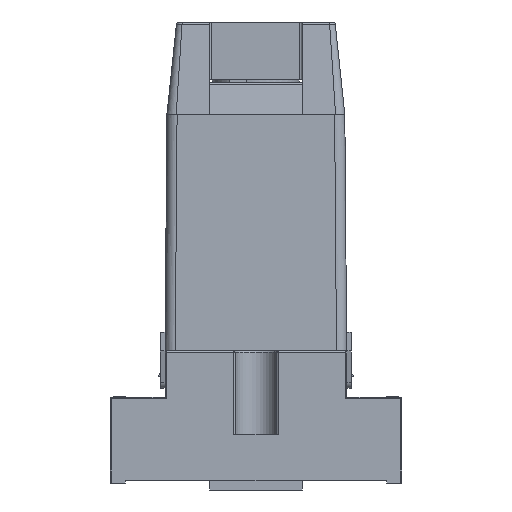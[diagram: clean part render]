
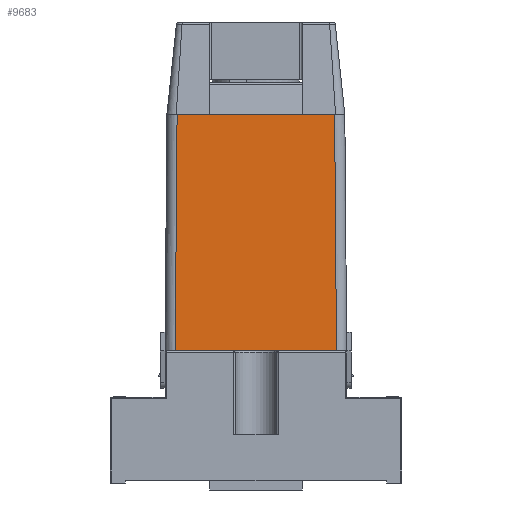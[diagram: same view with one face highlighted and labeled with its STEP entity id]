
A CAD part, front view. The second image highlights one B-rep face of the part: STEP entity #9683.
In plain terms, the highlighted planar face has unit normal (0, -1, 0.008).
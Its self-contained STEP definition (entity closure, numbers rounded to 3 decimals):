
#9683=ADVANCED_FACE('',(#62184),#62186,.T.);
#62184=FACE_BOUND('',#62185,.T.);
#62185=EDGE_LOOP('',(#116047,#116048,#116049,#116050,#116051,#116052,#116053,#116054));
#62186=PLANE('',#62187);
#62187=AXIS2_PLACEMENT_3D('',#62188,#62189,#62190);
#62188=CARTESIAN_POINT('',(16.969,-33.6,79.));
#62189=DIRECTION('',(0.,-1.,0.008));
#62190=DIRECTION('',(-1.,0.,0.));
#116047=ORIENTED_EDGE('',*,*,#148664,.F.);
#116048=ORIENTED_EDGE('',*,*,#148665,.F.);
#116049=ORIENTED_EDGE('',*,*,#148666,.F.);
#116050=ORIENTED_EDGE('',*,*,#148667,.T.);
#116051=ORIENTED_EDGE('',*,*,#148668,.T.);
#116052=ORIENTED_EDGE('',*,*,#148669,.F.);
#116053=ORIENTED_EDGE('',*,*,#146373,.F.);
#116054=ORIENTED_EDGE('',*,*,#148670,.F.);
#146373=EDGE_CURVE('',#165180,#165181,#165182,.T.);
#148664=EDGE_CURVE('',#168786,#168787,#168788,.T.);
#148665=EDGE_CURVE('',#168789,#168786,#168790,.T.);
#148666=EDGE_CURVE('',#168791,#168789,#168792,.T.);
#148667=EDGE_CURVE('',#168791,#168793,#168794,.T.);
#148668=EDGE_CURVE('',#168793,#168795,#168796,.T.);
#148669=EDGE_CURVE('',#165181,#168795,#168797,.T.);
#148670=EDGE_CURVE('',#168787,#165180,#168798,.T.);
#165180=VERTEX_POINT('',#197980);
#165181=VERTEX_POINT('',#197981);
#165182=LINE('',#197982,#197983);
#168786=VERTEX_POINT('',#206737);
#168787=VERTEX_POINT('',#206738);
#168788=LINE('',#206739,#206740);
#168789=VERTEX_POINT('',#206742);
#168790=LINE('',#206743,#206744);
#168791=VERTEX_POINT('',#206746);
#168792=LINE('',#206747,#206748);
#168793=VERTEX_POINT('',#206750);
#168794=LINE('',#206751,#206752);
#168795=VERTEX_POINT('',#206754);
#168796=LINE('',#206755,#206756);
#168797=LINE('',#206758,#206759);
#168798=LINE('',#206761,#206762);
#197980=CARTESIAN_POINT('',(-4.098,-34.,28.));
#197981=CARTESIAN_POINT('',(-13.5,-34.,28.));
#197982=CARTESIAN_POINT('',(-4.098,-34.,28.));
#197983=VECTOR('',#197984,1.);
#197984=DIRECTION('',(-1.,0.,0.));
#206737=CARTESIAN_POINT('',(13.5,-34.,28.));
#206738=CARTESIAN_POINT('',(4.098,-34.,28.));
#206739=CARTESIAN_POINT('',(13.5,-34.,28.));
#206740=VECTOR('',#206741,1.);
#206741=DIRECTION('',(-1.,0.,0.));
#206742=CARTESIAN_POINT('',(17.369,-34.,28.));
#206743=CARTESIAN_POINT('',(17.369,-34.,28.));
#206744=VECTOR('',#206745,1.);
#206745=DIRECTION('',(-1.,0.,0.));
#206746=CARTESIAN_POINT('',(16.969,-33.6,79.));
#206747=CARTESIAN_POINT('',(16.969,-33.6,79.));
#206748=VECTOR('',#206749,1.);
#206749=DIRECTION('',(0.008,-0.008,-1.));
#206750=CARTESIAN_POINT('',(-17.031,-33.6,79.));
#206751=CARTESIAN_POINT('',(16.969,-33.6,79.));
#206752=VECTOR('',#206753,1.);
#206753=DIRECTION('',(-1.,0.,0.));
#206754=CARTESIAN_POINT('',(-17.431,-34.,28.));
#206755=CARTESIAN_POINT('',(-17.031,-33.6,79.));
#206756=VECTOR('',#206757,1.);
#206757=DIRECTION('',(-0.008,-0.008,-1.));
#206758=CARTESIAN_POINT('',(-13.5,-34.,28.));
#206759=VECTOR('',#206760,1.);
#206760=DIRECTION('',(-1.,0.,0.));
#206761=CARTESIAN_POINT('',(4.098,-34.,28.));
#206762=VECTOR('',#206763,1.);
#206763=DIRECTION('',(-1.,0.,0.));
